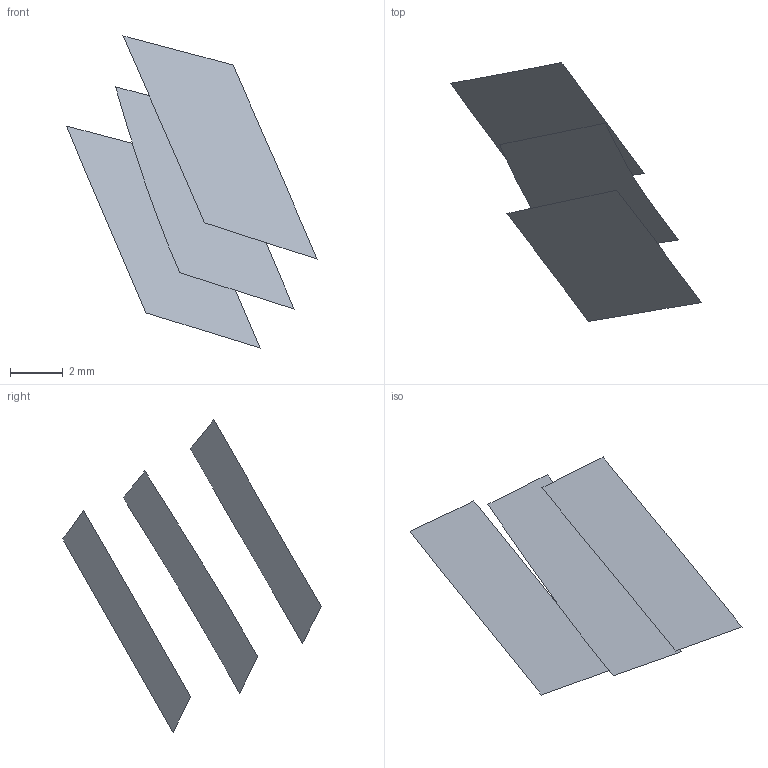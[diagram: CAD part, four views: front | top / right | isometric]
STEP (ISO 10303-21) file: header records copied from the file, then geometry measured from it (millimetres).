
FILE_DESCRIPTION(('FreeCAD Model'),'2;1');
FILE_NAME('Open CASCADE Shape Model','2022-05-22T07:50:32',('FreeCAD'),( 'FreeCAD'),'Open CASCADE STEP processor 7.5','FreeCAD','Unknown');
FILE_SCHEMA(('AUTOMOTIVE_DESIGN { 1 0 10303 214 1 1 1 1 }'));
Length unit declared in the file: millimetre
Products named in the file (4): Open CASCADE STEP translator 7.5 1; Open CASCADE STEP translator 7.5 1.1; Open CASCADE STEP translator 7.5 1.2; Open CASCADE STEP translator 7.5 1.3
Assembly tree (3 placements, depth 2):
  Open CASCADE STEP translator 7.5 1
    Open CASCADE STEP translator 7.5 1.1
    Open CASCADE STEP translator 7.5 1.2
    Open CASCADE STEP translator 7.5 1.3
Bounding box: 9.46 x 9.77 x 11.79 mm (x, y, z)
Surface area: 104.5 mm2 (no closed solid volume)
Topology: 0 solids, 3 shells, 3 faces, 34 edges, 34 vertices
Faces by surface type: bspline 3
Entity records: 542 total; most frequent: CARTESIAN_POINT 186, B_SPLINE_CURVE_WITH_KNOTS 68, ORIENTED_EDGE 34, EDGE_CURVE 34, VERTEX_POINT 34, SURFACE_CURVE 34, PCURVE 34, DEFINITIONAL_REPRESENTATION 34
